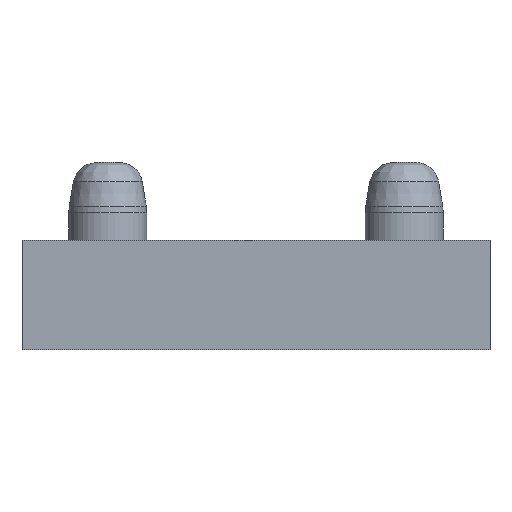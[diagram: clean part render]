
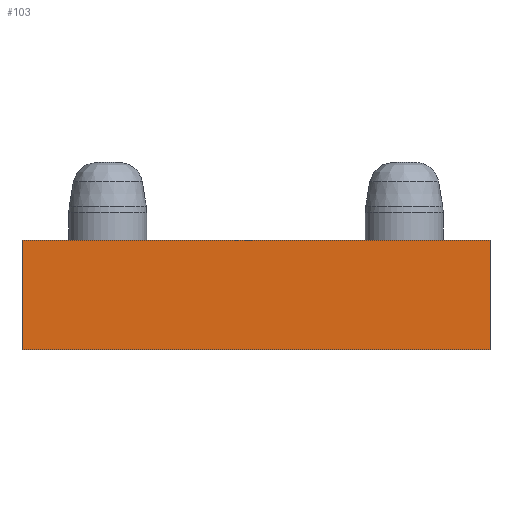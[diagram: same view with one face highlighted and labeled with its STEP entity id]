
A CAD part, front view. The second image highlights one B-rep face of the part: STEP entity #103.
In plain terms, the highlighted planar face has unit normal (0, -1, 0).
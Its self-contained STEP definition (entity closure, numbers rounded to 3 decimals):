
#83=PLANE('',#1127);
#103=ADVANCED_FACE('',(#198),#83,.T.);
#198=FACE_OUTER_BOUND('',#258,.T.);
#258=EDGE_LOOP('',(#561,#562,#563,#564));
#429=LINE('',#1618,#487);
#430=LINE('',#1620,#488);
#431=LINE('',#1622,#489);
#432=LINE('',#1624,#490);
#487=VECTOR('',#1249,1.);
#488=VECTOR('',#1252,1.);
#489=VECTOR('',#1253,1.);
#490=VECTOR('',#1254,1.);
#561=ORIENTED_EDGE('',*,*,#973,.F.);
#562=ORIENTED_EDGE('',*,*,#972,.F.);
#563=ORIENTED_EDGE('',*,*,#974,.T.);
#564=ORIENTED_EDGE('',*,*,#975,.T.);
#870=VERTEX_POINT('',#1613);
#872=VERTEX_POINT('',#1617);
#873=VERTEX_POINT('',#1621);
#874=VERTEX_POINT('',#1623);
#972=EDGE_CURVE('',#872,#870,#429,.T.);
#973=EDGE_CURVE('',#870,#873,#430,.T.);
#974=EDGE_CURVE('',#872,#874,#431,.T.);
#975=EDGE_CURVE('',#874,#873,#432,.T.);
#1127=AXIS2_PLACEMENT_3D('',#1625,#1255,#1256);
#1249=DIRECTION('',(0.,0.,1.));
#1252=DIRECTION('',(1.,0.,0.));
#1253=DIRECTION('',(1.,0.,0.));
#1254=DIRECTION('',(0.,0.,1.));
#1255=DIRECTION('',(0.,-1.,0.));
#1256=DIRECTION('',(0.,0.,-1.));
#1613=CARTESIAN_POINT('',(-60.,-100.,0.));
#1617=CARTESIAN_POINT('',(-60.,-100.,-14.));
#1618=CARTESIAN_POINT('',(-60.,-100.,-14.));
#1620=CARTESIAN_POINT('',(-60.,-100.,0.));
#1621=CARTESIAN_POINT('',(0.,-100.,0.));
#1622=CARTESIAN_POINT('',(-60.,-100.,-14.));
#1623=CARTESIAN_POINT('',(0.,-100.,-14.));
#1624=CARTESIAN_POINT('',(0.,-100.,-14.));
#1625=CARTESIAN_POINT('',(-60.,-100.,-14.));
